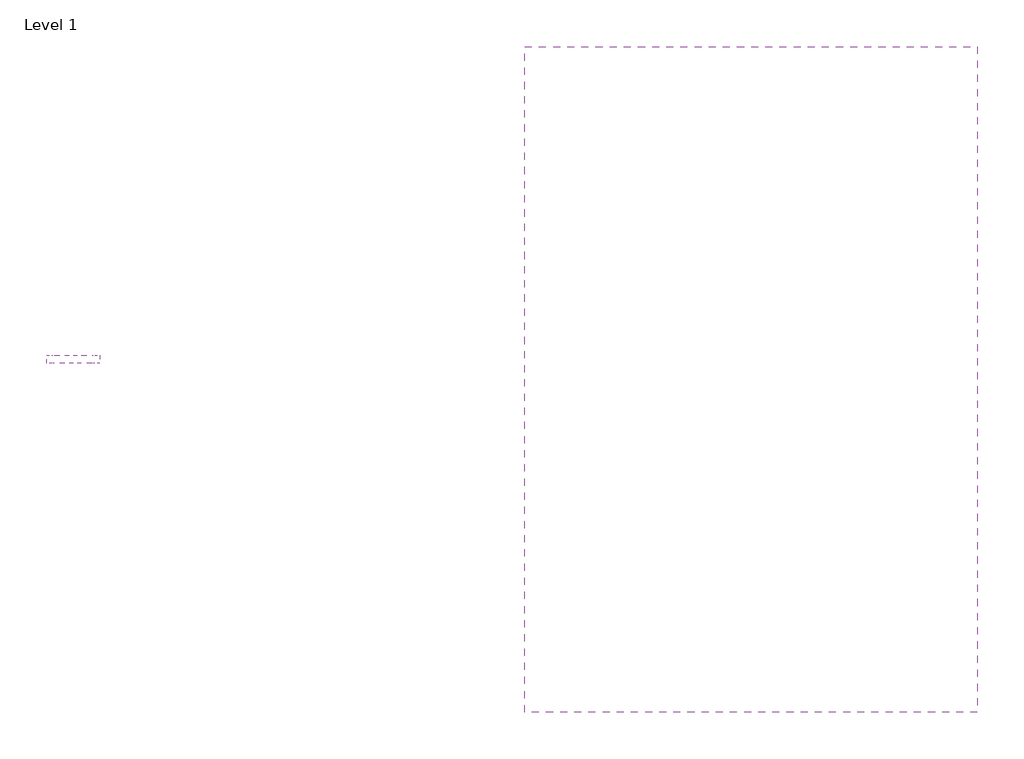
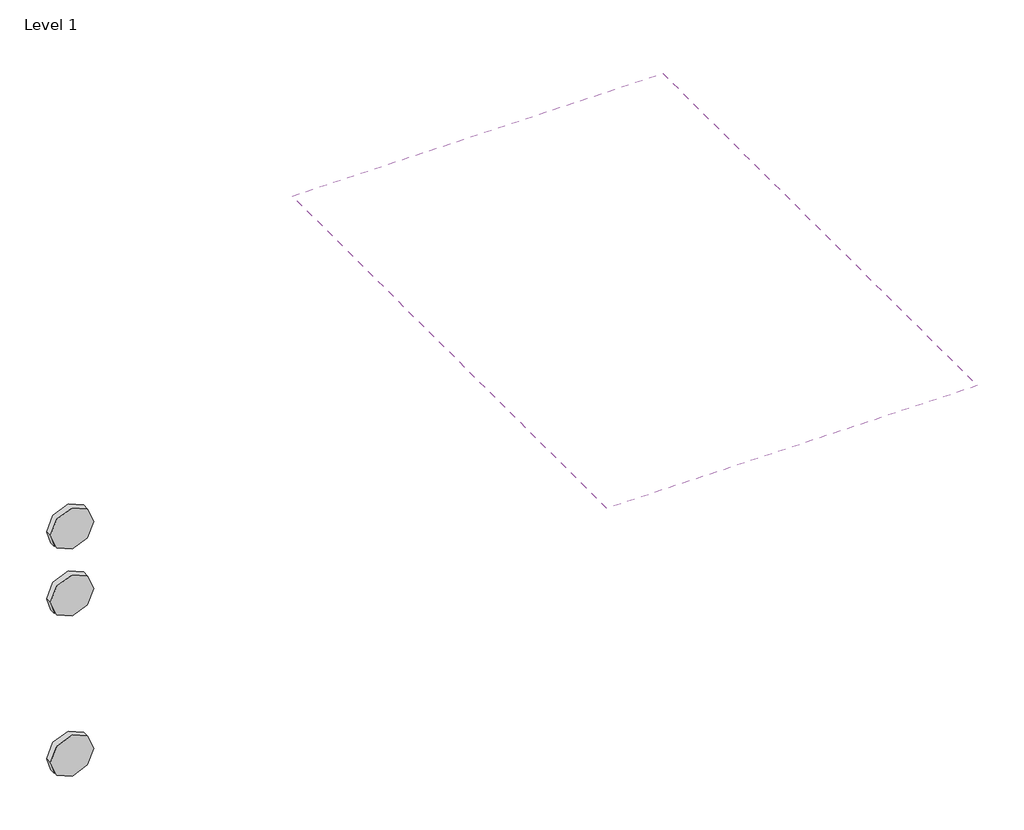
# One storey, incomplete: 3 proxies, 1 covering.
"""IFC4 building model written with IfcOpenShell, lengths in millimetres."""

from ifc_helpers import new_model, si_unit, frame, origin, place, context, project, spatial, polyline, outline, extrude, transform, mapped, element, save
from components import materialmodel_materialmodel_6280714f

model = new_model("IFC4")

# Units and contexts
model_context = context("Model", 3, world=origin())
ifc_project = project(units=[si_unit("LENGTHUNIT", "METRE", prefix="MILLI")], contexts=[model_context])

# Site, building, storey
site = spatial("IfcSite", under=ifc_project)
building = spatial("IfcBuilding", under=site)
storey = spatial("IfcBuildingStorey", under=building, Name="Level 1", Elevation=0.0)

# Proxies
placement = place(None, origin())
materialmodel_materialmodel_shape = materialmodel_materialmodel_6280714f(model_context)
element("IfcBuildingElementProxy", 1, Name="MaterialModel : MaterialModel", ObjectType="MaterialModel : MaterialModel", at=placement, inside=storey, context=model_context, shape_type="MappedRepresentation", body=[
    mapped(materialmodel_materialmodel_shape, transform((-14999.2264414, 6097.5863071, 1364.6338592), x_axis=(1.0, 0.0, 0.0), y_axis=(0.0, 1.0, 0.0), z_axis=(0.0, 0.0, 1.0))),
])
element("IfcBuildingElementProxy", 2, Name="MaterialModel : MaterialModel", ObjectType="MaterialModel : MaterialModel", at=placement, inside=storey, context=model_context, shape_type="MappedRepresentation", body=[
    mapped(materialmodel_materialmodel_shape, transform((-14999.2264414, 6097.5863071, 1805.4161759), x_axis=(1.0, 0.0, 0.0), y_axis=(0.0, 1.0, 0.0), z_axis=(0.0, 0.0, 1.0))),
])
element("IfcBuildingElementProxy", 3, Name="MaterialModel : MaterialModel", ObjectType="MaterialModel : MaterialModel", at=placement, inside=storey, context=model_context, shape_type="MappedRepresentation", body=[
    mapped(materialmodel_materialmodel_shape, transform((-14999.2264414, 6097.5863071, 1675.4161759), x_axis=(1.0, 0.0, 0.0), y_axis=(0.0, 1.0, 0.0), z_axis=(0.0, 0.0, 1.0))),
])

# Covering
element("IfcCovering", 4, ObjectType="600 x 1200mm Grid", at=placement, inside=storey, context=model_context, shape_type="SweptSolid", body=[
    extrude(outline(polyline([(-13640.883584, 6561.1087432), (-13640.883584, 5561.1087432), (-14320.883584, 5561.1087432), (-14320.883584, 6561.1087432), (-13640.883584, 6561.1087432)])), frame((0.0, 0.0, 2000.0), z_axis=(0.0, 0.0, 1.0), x_axis=(1.0, 0.0, 0.0)), (0.0, 0.0, 1.0), 52.0),
])

save(model, "model.ifc")
